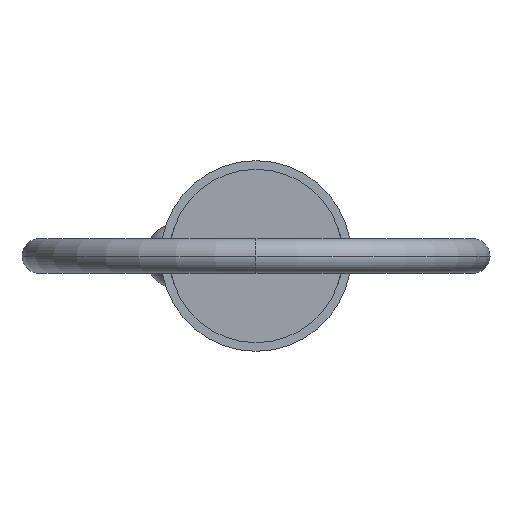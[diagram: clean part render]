
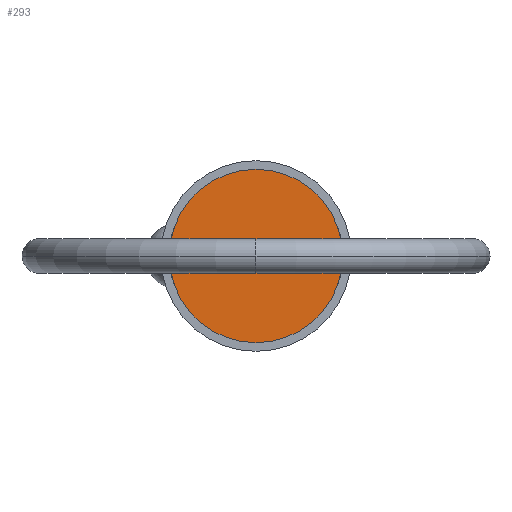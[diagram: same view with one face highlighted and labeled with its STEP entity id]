
A CAD part, left-side view. The second image highlights one B-rep face of the part: STEP entity #293.
In plain terms, the highlighted planar face has unit normal (-1, 0, 0).
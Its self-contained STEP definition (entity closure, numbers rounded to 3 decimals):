
#141 = EDGE_CURVE ( 'NONE', #902, #583, #357, .T. ) ;
#159 = CARTESIAN_POINT ( 'NONE',  ( 0., 0., 0. ) ) ;
#197 = CIRCLE ( 'NONE', #483, 12.7 ) ;
#275 = ORIENTED_EDGE ( 'NONE', *, *, #307, .F. ) ;
#293 = ADVANCED_FACE ( 'NONE', ( #1006 ), #922, .T. ) ;
#307 = EDGE_CURVE ( 'NONE', #583, #902, #197, .T. ) ;
#328 = CARTESIAN_POINT ( 'NONE',  ( 0., 0., 0. ) ) ;
#355 = DIRECTION ( 'NONE',  ( 0., 0., -1. ) ) ;
#357 = CIRCLE ( 'NONE', #987, 12.7 ) ;
#483 = AXIS2_PLACEMENT_3D ( 'NONE', #159, #961, #1032 ) ;
#501 = DIRECTION ( 'NONE',  ( 0., 0., 1. ) ) ;
#534 = AXIS2_PLACEMENT_3D ( 'NONE', #328, #828, #501 ) ;
#583 = VERTEX_POINT ( 'NONE', #880 ) ;
#620 = CARTESIAN_POINT ( 'NONE',  ( 0., 0., 0. ) ) ;
#671 = CARTESIAN_POINT ( 'NONE',  ( 0., 0., -12.7 ) ) ;
#737 = ORIENTED_EDGE ( 'NONE', *, *, #141, .F. ) ;
#828 = DIRECTION ( 'NONE',  ( -1., 0., 0. ) ) ;
#880 = CARTESIAN_POINT ( 'NONE',  ( 0., 0., 12.7 ) ) ;
#902 = VERTEX_POINT ( 'NONE', #671 ) ;
#922 = PLANE ( 'NONE',  #534 ) ;
#946 = EDGE_LOOP ( 'NONE', ( #737, #275 ) ) ;
#961 = DIRECTION ( 'NONE',  ( 1., 0., 0. ) ) ;
#987 = AXIS2_PLACEMENT_3D ( 'NONE', #620, #1048, #355 ) ;
#1006 = FACE_OUTER_BOUND ( 'NONE', #946, .T. ) ;
#1032 = DIRECTION ( 'NONE',  ( 0., 0., -1. ) ) ;
#1048 = DIRECTION ( 'NONE',  ( 1., 0., 0. ) ) ;
